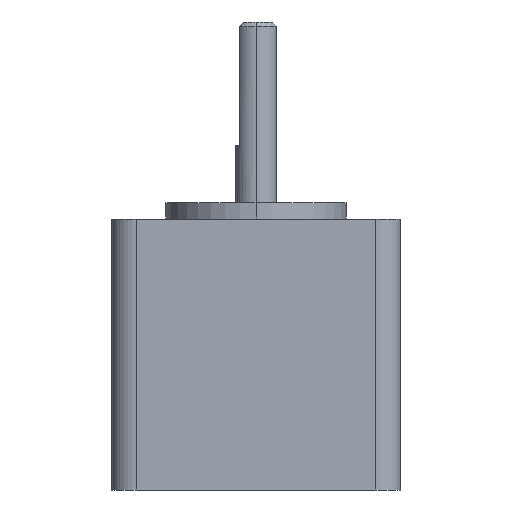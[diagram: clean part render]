
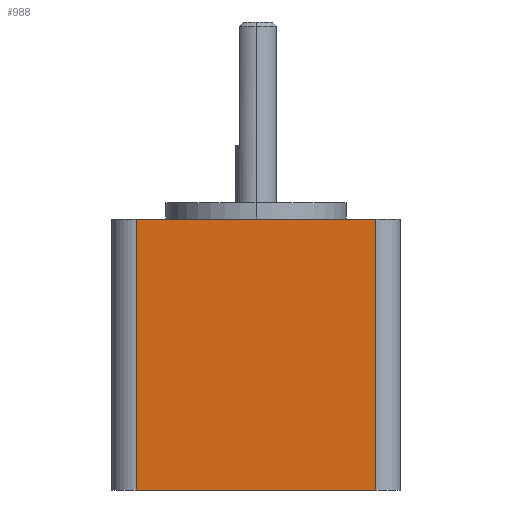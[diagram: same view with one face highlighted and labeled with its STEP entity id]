
A CAD part, left-side view. The second image highlights one B-rep face of the part: STEP entity #988.
In plain terms, the highlighted planar face has unit normal (-1, 0, 0).
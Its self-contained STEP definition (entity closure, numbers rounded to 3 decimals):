
#13 = FACE_OUTER_BOUND ( 'NONE', #34, .T. ) ;
#32 = VERTEX_POINT ( 'NONE', #458 ) ;
#34 = EDGE_LOOP ( 'NONE', ( #109, #105, #248, #107 ) ) ;
#38 = VERTEX_POINT ( 'NONE', #460 ) ;
#105 = ORIENTED_EDGE ( 'NONE', *, *, #973, .T. ) ;
#107 = ORIENTED_EDGE ( 'NONE', *, *, #949, .T. ) ;
#109 = ORIENTED_EDGE ( 'NONE', *, *, #852, .F. ) ;
#163 = LINE ( 'NONE', #697, #347 ) ;
#180 = LINE ( 'NONE', #648, #615 ) ;
#205 = LINE ( 'NONE', #721, #605 ) ;
#248 = ORIENTED_EDGE ( 'NONE', *, *, #982, .T. ) ;
#265 = VERTEX_POINT ( 'NONE', #489 ) ;
#284 = VERTEX_POINT ( 'NONE', #494 ) ;
#323 = LINE ( 'NONE', #557, #408 ) ;
#347 = VECTOR ( 'NONE', #704, 1000. ) ;
#408 = VECTOR ( 'NONE', #558, 1000. ) ;
#458 = CARTESIAN_POINT ( 'NONE',  ( -17.6, 14.6, 0. ) ) ;
#460 = CARTESIAN_POINT ( 'NONE',  ( -17.6, -14.6, 0. ) ) ;
#489 = CARTESIAN_POINT ( 'NONE',  ( -17.6, 14.6, 33. ) ) ;
#494 = CARTESIAN_POINT ( 'NONE',  ( -17.6, -14.6, 33. ) ) ;
#557 = CARTESIAN_POINT ( 'NONE',  ( -17.6, -17.6, 33. ) ) ;
#558 = DIRECTION ( 'NONE',  ( 0., -1., 0. ) ) ;
#605 = VECTOR ( 'NONE', #720, 1000. ) ;
#615 = VECTOR ( 'NONE', #656, 1000. ) ;
#628 = AXIS2_PLACEMENT_3D ( 'NONE', #899, #882, #905 ) ;
#648 = CARTESIAN_POINT ( 'NONE',  ( -17.6, -17.6, 0. ) ) ;
#656 = DIRECTION ( 'NONE',  ( 0., -1., 0. ) ) ;
#697 = CARTESIAN_POINT ( 'NONE',  ( -17.6, -14.6, 33. ) ) ;
#704 = DIRECTION ( 'NONE',  ( 0., 0., 1. ) ) ;
#720 = DIRECTION ( 'NONE',  ( 0., 0., -1. ) ) ;
#721 = CARTESIAN_POINT ( 'NONE',  ( -17.6, 14.6, 33. ) ) ;
#852 = EDGE_CURVE ( 'NONE', #265, #284, #323, .T. ) ;
#879 = PLANE ( 'NONE',  #628 ) ;
#882 = DIRECTION ( 'NONE',  ( 1., 0., 0. ) ) ;
#899 = CARTESIAN_POINT ( 'NONE',  ( -17.6, -17.6, 33. ) ) ;
#905 = DIRECTION ( 'NONE',  ( 0., 0., -1. ) ) ;
#949 = EDGE_CURVE ( 'NONE', #38, #284, #163, .T. ) ;
#973 = EDGE_CURVE ( 'NONE', #265, #32, #205, .T. ) ;
#982 = EDGE_CURVE ( 'NONE', #32, #38, #180, .T. ) ;
#988 = ADVANCED_FACE ( 'NONE', ( #13 ), #879, .F. ) ;
